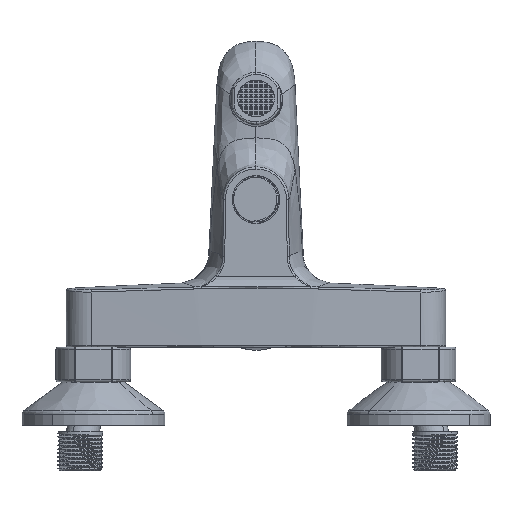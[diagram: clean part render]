
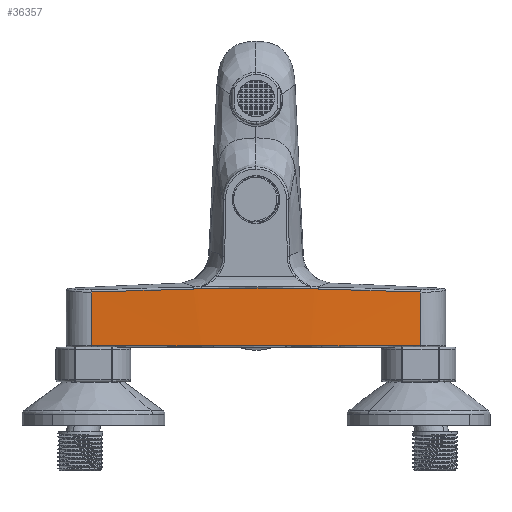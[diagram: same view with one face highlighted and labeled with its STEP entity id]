
A CAD part, front view. The second image highlights one B-rep face of the part: STEP entity #36357.
In plain terms, the highlighted cylindrical face has radius 1138.75 mm (diameter 2277.5 mm), a partial arc.
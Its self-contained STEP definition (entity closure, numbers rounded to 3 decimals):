
#594 = EDGE_CURVE ( 'NONE', #10609, #67356, #11209, .T. ) ;
#735 = CARTESIAN_POINT ( 'NONE',  ( 26.73, -14.635, 28.84 ) ) ;
#820 = CARTESIAN_POINT ( 'NONE',  ( 13.898, -12.472, -75.832 ) ) ;
#1550 = VERTEX_POINT ( 'NONE', #21071 ) ;
#2566 = EDGE_CURVE ( 'NONE', #22190, #12731, #6698, .T. ) ;
#5983 = CARTESIAN_POINT ( 'NONE',  ( 0.5, 1123.75, 0. ) ) ;
#6698 = B_SPLINE_CURVE_WITH_KNOTS ( 'NONE', 3,
 ( #44028, #74409, #39981, #20866 ),
 .UNSPECIFIED., .F., .F.,
 ( 4, 4 ),
 ( 0., 1. ),
 .UNSPECIFIED. ) ;
#8574 = CARTESIAN_POINT ( 'NONE',  ( 27.167, -14.724, 25.066 ) ) ;
#10609 = VERTEX_POINT ( 'NONE', #41243 ) ;
#11209 = LINE ( 'NONE', #820, #13907 ) ;
#11386 = EDGE_LOOP ( 'NONE', ( #22788, #59685, #50841, #39158, #73154, #63118, #37166, #55150 ) ) ;
#11542 = EDGE_CURVE ( 'NONE', #12731, #1550, #25536, .T. ) ;
#11895 = DIRECTION ( 'NONE',  ( -1., 0., 0. ) ) ;
#12065 = CARTESIAN_POINT ( 'NONE',  ( 26.749, -14.667, 27.552 ) ) ;
#12731 = VERTEX_POINT ( 'NONE', #73909 ) ;
#13907 = VECTOR ( 'NONE', #18017, 1000. ) ;
#16168 = CARTESIAN_POINT ( 'NONE',  ( 26.483, -14.224, -45.071 ) ) ;
#18017 = DIRECTION ( 'NONE',  ( -1., 0., 0. ) ) ;
#18615 = EDGE_CURVE ( 'NONE', #72481, #22190, #45871, .T. ) ;
#19750 = CARTESIAN_POINT ( 'NONE',  ( 27.167, -14.724, -25.066 ) ) ;
#19978 = VERTEX_POINT ( 'NONE', #68743 ) ;
#20176 = VERTEX_POINT ( 'NONE', #30747 ) ;
#20866 = CARTESIAN_POINT ( 'NONE',  ( 25.378, -12.472, 75.832 ) ) ;
#20981 = CARTESIAN_POINT ( 'NONE',  ( 26.73, -14.635, -28.84 ) ) ;
#21071 = CARTESIAN_POINT ( 'NONE',  ( 0.5, -12.472, 75.832 ) ) ;
#22190 = VERTEX_POINT ( 'NONE', #60074 ) ;
#22304 = CARTESIAN_POINT ( 'NONE',  ( 27.338, -15.092, 8.359 ) ) ;
#22788 = ORIENTED_EDGE ( 'NONE', *, *, #48930, .T. ) ;
#24382 = B_SPLINE_CURVE_WITH_KNOTS ( 'NONE', 3,
 ( #32824, #73755, #16168, #20981 ),
 .UNSPECIFIED., .F., .F.,
 ( 4, 4 ),
 ( 0., 1. ),
 .UNSPECIFIED. ) ;
#25536 = LINE ( 'NONE', #69267, #31823 ) ;
#27259 = FACE_OUTER_BOUND ( 'NONE', #11386, .T. ) ;
#29497 = EDGE_CURVE ( 'NONE', #19978, #20176, #47109, .T. ) ;
#30747 = CARTESIAN_POINT ( 'NONE',  ( 27.167, -14.724, -25.066 ) ) ;
#31465 = DIRECTION ( 'NONE',  ( -1., 0., 0. ) ) ;
#31823 = VECTOR ( 'NONE', #11895, 1000. ) ;
#32824 = CARTESIAN_POINT ( 'NONE',  ( 25.378, -12.472, -75.832 ) ) ;
#33898 = CARTESIAN_POINT ( 'NONE',  ( 27.167, -14.724, -25.066 ) ) ;
#36357 = ADVANCED_FACE ( 'NONE', ( #27259 ), #56063, .T. ) ;
#36855 = CIRCLE ( 'NONE', #72338, 1138.75 ) ;
#37166 = ORIENTED_EDGE ( 'NONE', *, *, #58982, .F. ) ;
#37537 = CARTESIAN_POINT ( 'NONE',  ( 0.5, -12.472, -75.832 ) ) ;
#39158 = ORIENTED_EDGE ( 'NONE', *, *, #18615, .T. ) ;
#39981 = CARTESIAN_POINT ( 'NONE',  ( 26.032, -13.48, 60.739 ) ) ;
#40022 = CARTESIAN_POINT ( 'NONE',  ( 27.167, -14.724, 25.066 ) ) ;
#41220 = DIRECTION ( 'NONE',  ( 0., 0., -1. ) ) ;
#41243 = CARTESIAN_POINT ( 'NONE',  ( 25.378, -12.472, -75.832 ) ) ;
#44028 = CARTESIAN_POINT ( 'NONE',  ( 26.73, -14.635, 28.84 ) ) ;
#45871 = B_SPLINE_CURVE_WITH_KNOTS ( 'NONE', 3,
 ( #40022, #46299, #12065, #735 ),
 .UNSPECIFIED., .F., .F.,
 ( 4, 4 ),
 ( 0., 1. ),
 .UNSPECIFIED. ) ;
#46017 = B_SPLINE_CURVE_WITH_KNOTS ( 'NONE', 3,
 ( #56810, #22304, #62580, #33898 ),
 .UNSPECIFIED., .F., .F.,
 ( 4, 4 ),
 ( 0., 1. ),
 .UNSPECIFIED. ) ;
#46299 = CARTESIAN_POINT ( 'NONE',  ( 26.895, -14.697, 26.294 ) ) ;
#47109 = B_SPLINE_CURVE_WITH_KNOTS ( 'NONE', 3,
 ( #53485, #48440, #54252, #19750 ),
 .UNSPECIFIED., .F., .F.,
 ( 4, 4 ),
 ( 0., 1. ),
 .UNSPECIFIED. ) ;
#48440 = CARTESIAN_POINT ( 'NONE',  ( 26.749, -14.667, -27.552 ) ) ;
#48930 = EDGE_CURVE ( 'NONE', #10609, #19978, #24382, .T. ) ;
#49558 = DIRECTION ( 'NONE',  ( 0., -1., 0. ) ) ;
#50841 = ORIENTED_EDGE ( 'NONE', *, *, #56652, .F. ) ;
#52312 = DIRECTION ( 'NONE',  ( 1., 0., 0. ) ) ;
#53485 = CARTESIAN_POINT ( 'NONE',  ( 26.73, -14.635, -28.84 ) ) ;
#54252 = CARTESIAN_POINT ( 'NONE',  ( 26.895, -14.697, -26.294 ) ) ;
#55150 = ORIENTED_EDGE ( 'NONE', *, *, #594, .F. ) ;
#55174 = AXIS2_PLACEMENT_3D ( 'NONE', #5983, #52312, #41220 ) ;
#56063 = CYLINDRICAL_SURFACE ( 'NONE', #55174, 1138.75 ) ;
#56652 = EDGE_CURVE ( 'NONE', #72481, #20176, #46017, .T. ) ;
#56810 = CARTESIAN_POINT ( 'NONE',  ( 27.167, -14.724, 25.066 ) ) ;
#58982 = EDGE_CURVE ( 'NONE', #67356, #1550, #36855, .T. ) ;
#59685 = ORIENTED_EDGE ( 'NONE', *, *, #29497, .T. ) ;
#60074 = CARTESIAN_POINT ( 'NONE',  ( 26.73, -14.635, 28.84 ) ) ;
#62580 = CARTESIAN_POINT ( 'NONE',  ( 27.338, -15.092, -8.359 ) ) ;
#63118 = ORIENTED_EDGE ( 'NONE', *, *, #11542, .T. ) ;
#65932 = CARTESIAN_POINT ( 'NONE',  ( 0.5, 1123.75, 0. ) ) ;
#67356 = VERTEX_POINT ( 'NONE', #37537 ) ;
#68743 = CARTESIAN_POINT ( 'NONE',  ( 26.73, -14.635, -28.84 ) ) ;
#69267 = CARTESIAN_POINT ( 'NONE',  ( 13.283, -12.472, 75.832 ) ) ;
#72338 = AXIS2_PLACEMENT_3D ( 'NONE', #65932, #31465, #49558 ) ;
#72481 = VERTEX_POINT ( 'NONE', #8574 ) ;
#73154 = ORIENTED_EDGE ( 'NONE', *, *, #2566, .T. ) ;
#73755 = CARTESIAN_POINT ( 'NONE',  ( 26.032, -13.48, -60.739 ) ) ;
#73909 = CARTESIAN_POINT ( 'NONE',  ( 25.378, -12.472, 75.832 ) ) ;
#74409 = CARTESIAN_POINT ( 'NONE',  ( 26.483, -14.224, 45.071 ) ) ;
